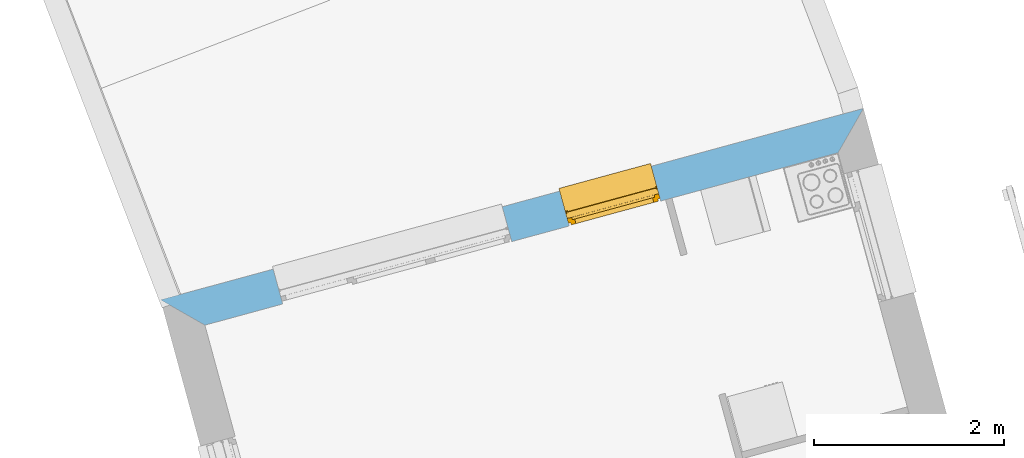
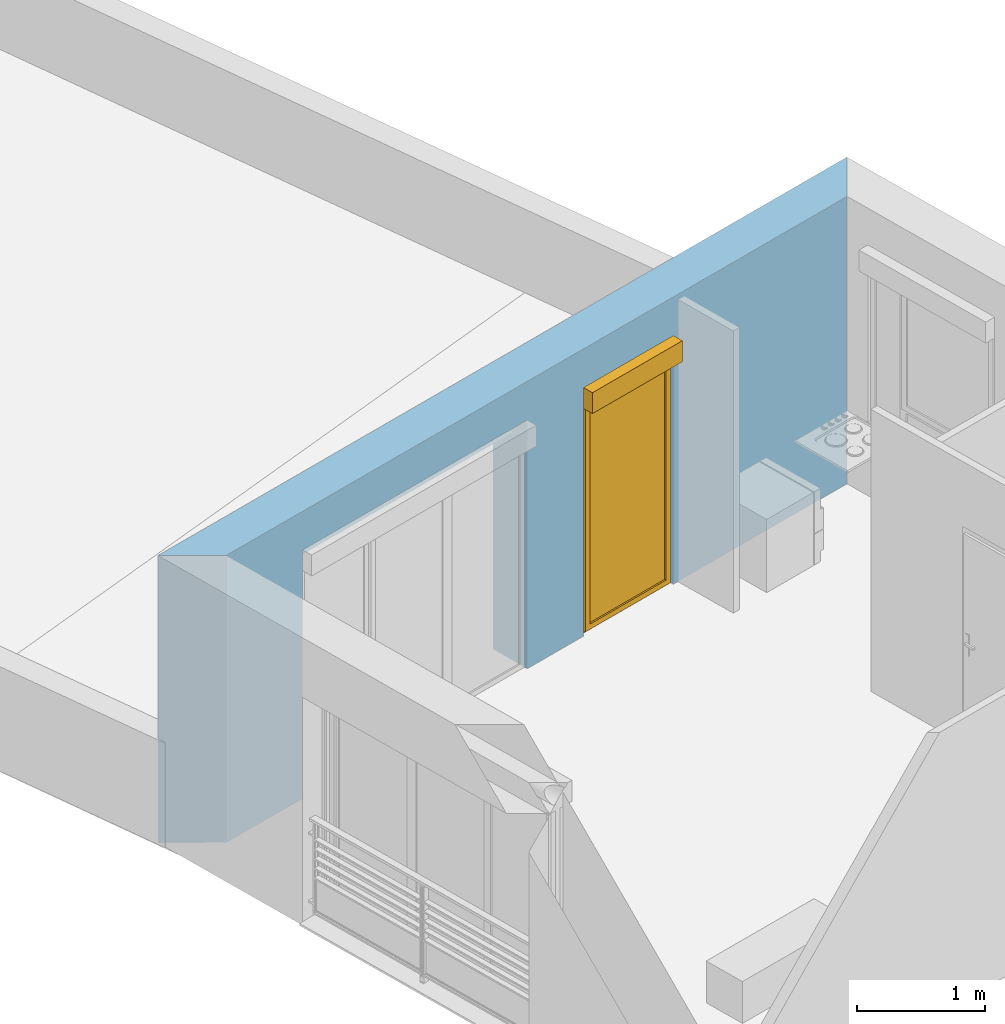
# One storey, part 65 of 121: 1 window, 2 openings, plus 1 element that does not belong to this part.
"""IFC2X3 building model written with IfcOpenShell, lengths in metres."""

import ifcopenshell
import ifcopenshell.guid

model = None  # the IFC model being written
_history = None  # IfcOwnerHistory: only IFC2X3 demands one
_inside = {}  # id of a spatial element -> (the spatial element, [elements in it])
_under = {}  # id of a project, library or spatial element -> (it, [spatial elements below it])
_declared = {}  # id of a project -> (the project, [libraries it declares])
_typed = {}  # id of a type object -> (the type object, [elements of that type])
_made_of = {}  # id of a material, layer set ... -> (it, [elements and type objects made of it])


def new_model(schema):
    """Start an empty IFC model of exactly this schema.

    Asked for "IFC4X3", IfcOpenShell would pick the latest addendum, in which some entities
    have other attributes; the version numbers below select the first issue.
    IFC2X3 requires an IfcOwnerHistory on every rooted entity: one is made here for all.
    """
    global model, _history
    if schema == "IFC4X3":
        model = ifcopenshell.file(schema_version=(4, 3, 0, 0))
    else:
        model = ifcopenshell.file(schema=schema)
    _inside.clear()
    _under.clear()
    _declared.clear()
    _typed.clear()
    _made_of.clear()
    _history = None
    if model.schema == "IFC2X3":
        org = make("IfcOrganization", Name="unknown")
        user = make(
            "IfcPersonAndOrganization",
            ThePerson=make("IfcPerson", FamilyName="unknown"),
            TheOrganization=org,
        )
        app = make(
            "IfcApplication",
            ApplicationDeveloper=org,
            Version="unknown",
            ApplicationFullName="unknown",
            ApplicationIdentifier="unknown",
        )
        _history = make(
            "IfcOwnerHistory",
            OwningUser=user,
            OwningApplication=app,
            ChangeAction="ADDED",
            CreationDate=0,
        )
    return model


def make(cls, **values):
    """One entity of the class cls with the attributes given. An attribute that is None is left unset."""
    return model.create_entity(
        cls, **{name: value for name, value in values.items() if value is not None}
    )


def entity(cls, *values):
    """Any entity or typed value of the class cls, its attributes in the order of the schema. None: left unset."""
    e = model.create_entity(cls)
    for i, value in enumerate(values):
        if value is not None:
            e[i] = value
    return e


def rooted(cls, **values):
    """An entity with a GlobalId (a new one), such as an element, a storey or a relation."""
    return make(cls, GlobalId=ifcopenshell.guid.new(), OwnerHistory=_history, **values)


def si_unit(unit_type, name, prefix=None):
    """IfcSIUnit, for example si_unit("LENGTHUNIT", "METRE", prefix="MILLI")."""
    return make("IfcSIUnit", UnitType=unit_type, Prefix=prefix, Name=name)


def converted_unit(unit_type, name, factor, base, dimensions=None, offset=None):
    """IfcConversionBasedUnit, such as the inch: factor (a typed value) times the base unit."""
    return make(
        "IfcConversionBasedUnit"
        if offset is None
        else "IfcConversionBasedUnitWithOffset",
        ConversionOffset=offset,
        Dimensions=None
        if dimensions is None
        else entity("IfcDimensionalExponents", *dimensions),
        UnitType=unit_type,
        Name=name,
        ConversionFactor=make(
            "IfcMeasureWithUnit", ValueComponent=factor, UnitComponent=base
        ),
    )


def derived_unit(unit_type, elements):
    """IfcDerivedUnit: a product of units, each with its exponent."""
    return make(
        "IfcDerivedUnit",
        Elements=[
            make("IfcDerivedUnitElement", Unit=unit, Exponent=power)
            for unit, power in elements
        ],
        UnitType=unit_type,
    )


def money_unit(currency):
    """IfcMonetaryUnit."""
    return make("IfcMonetaryUnit", Currency=currency)


def assignment(units):
    """IfcUnitAssignment: the units of a project."""
    return None if units is None else make("IfcUnitAssignment", Units=units)


def point(xyz):
    """IfcCartesianPoint."""
    return None if xyz is None else make("IfcCartesianPoint", Coordinates=xyz)


def direction(xyz):
    """IfcDirection."""
    return None if xyz is None else make("IfcDirection", DirectionRatios=xyz)


def frame(location, z_axis=None, x_axis=None):
    """IfcAxis2Placement3D, a coordinate frame: its origin and axes. An axis left out is left unset."""
    return make(
        "IfcAxis2Placement3D",
        Location=point(location),
        Axis=direction(z_axis),
        RefDirection=direction(x_axis),
    )


def origin_with_axes():
    """The frame at (0, 0, 0) with the z axis (0, 0, 1) and the x axis (1, 0, 0) written out."""
    return frame((0.0, 0.0, 0.0), z_axis=(0.0, 0.0, 1.0), x_axis=(1.0, 0.0, 0.0))


def place(relative_to, where):
    """IfcLocalPlacement: puts the frame where relative to a parent placement (None: the world)."""
    return make(
        "IfcLocalPlacement", PlacementRelTo=relative_to, RelativePlacement=where
    )


def context(
    kind, dimensions, precision=None, world=None, true_north=None, identifier=None
):
    """IfcGeometricRepresentationContext, for example the 3D "Model" context."""
    return make(
        "IfcGeometricRepresentationContext",
        ContextIdentifier=identifier,
        ContextType=kind,
        CoordinateSpaceDimension=dimensions,
        Precision=precision,
        WorldCoordinateSystem=world,
        TrueNorth=true_north,
    )


def subcontext(parent, identifier, kind, view, scale=None):
    """IfcGeometricRepresentationSubContext, for example "Body" below "Model"."""
    return make(
        "IfcGeometricRepresentationSubContext",
        ContextIdentifier=identifier,
        ContextType=kind,
        ParentContext=parent,
        TargetScale=scale,
        TargetView=view,
    )


def project(units=None, contexts=None):
    """IfcProject with its units and contexts."""
    return rooted(
        "IfcProject",
        Name="project",
        RepresentationContexts=contexts,
        UnitsInContext=assignment(units),
    )


def spatial(cls, under=None, at=None, **own):
    """A site, building, storey or space (cls), placed at a placement, below another one or the project."""
    s = rooted(cls, ObjectPlacement=at, **own)
    if under is not None:
        _under.setdefault(under.id(), (under, []))[1].append(s)
    return s


def polyline(points):
    """IfcPolyline through the points."""
    return make("IfcPolyline", Points=[point(p) for p in points])


def outline(outer, holes=None, kind="AREA"):
    """IfcArbitraryClosedProfileDef: a profile drawn as a closed curve; with holes, ...WithVoids."""
    if holes is None:
        return make("IfcArbitraryClosedProfileDef", ProfileType=kind, OuterCurve=outer)
    return make(
        "IfcArbitraryProfileDefWithVoids",
        ProfileType=kind,
        OuterCurve=outer,
        InnerCurves=holes,
    )


def extrude(swept, where, along, depth):
    """IfcExtrudedAreaSolid: the profile swept, set in the frame where, extruded along a direction by depth."""
    return make(
        "IfcExtrudedAreaSolid",
        SweptArea=swept,
        Position=where,
        ExtrudedDirection=direction(along),
        Depth=depth,
    )


def faces_of(points, faces, orient=None, outer=None):
    """IfcFace entities. A face is a list of loops; a loop is a list of indices into points, from 0.

    orient and outer hold one flag for each loop. By default every Orientation is true, the
    first loop of a face is its IfcFaceOuterBound and the others are IfcFaceBound.
    """
    made = []
    for i, loops in enumerate(faces):
        bounds = []
        for j, loop in enumerate(loops):
            is_outer = j == 0 if outer is None else outer[i][j]
            bounds.append(
                make(
                    "IfcFaceOuterBound" if is_outer else "IfcFaceBound",
                    Bound=make("IfcPolyLoop", Polygon=[points[k] for k in loop]),
                    Orientation=True if orient is None else orient[i][j],
                )
            )
        made.append(make("IfcFace", Bounds=bounds))
    return made


def open_shell(faces, orient=None, outer=None):
    """The faces of one IfcOpenShell. surface_model builds it on its shared points."""
    return ("IfcOpenShell", faces, orient, outer)


def faceted_brep(points, faces, orient=None, outer=None, voids=None):
    """IfcFacetedBrep: a solid bounded by flat faces; with voids (closed shells), ...WithVoids."""
    shared = [point(p) for p in points]
    hull = make("IfcClosedShell", CfsFaces=faces_of(shared, faces, orient, outer))
    if voids is None:
        return make("IfcFacetedBrep", Outer=hull)
    return make(
        "IfcFacetedBrepWithVoids",
        Outer=hull,
        Voids=[
            make(cls, CfsFaces=faces_of(shared, fs, o, b)) for cls, fs, o, b in voids
        ],
    )


def surface_model(cls, points, shells):
    """IfcFaceBasedSurfaceModel or IfcShellBasedSurfaceModel (cls): surfaces that need not close."""
    shared = [point(p) for p in points]
    made = [make(c, CfsFaces=faces_of(shared, fs, o, b)) for c, fs, o, b in shells]
    if cls == "IfcFaceBasedSurfaceModel":
        return make(cls, FbsmFaces=made)
    return make(cls, SbsmBoundary=made)


def shape(context_of_items, identifier, shape_type, items):
    """IfcShapeRepresentation: the items that make up one representation, for example the "Body"."""
    return make(
        "IfcShapeRepresentation",
        ContextOfItems=context_of_items,
        RepresentationIdentifier=identifier,
        RepresentationType=shape_type,
        Items=items,
    )


def source(mapping_origin, context_of_items, identifier, shape_type, items):
    """IfcRepresentationMap: a shape defined once, which mapped items show again and again."""
    return make(
        "IfcRepresentationMap",
        MappingOrigin=mapping_origin,
        MappedRepresentation=shape(context_of_items, identifier, shape_type, items),
    )


def transform(
    local_origin,
    x_axis=None,
    y_axis=None,
    z_axis=None,
    scale=None,
    scale2=None,
    scale3=None,
    uniform=True,
):
    """IfcCartesianTransformationOperator3D, or its non-uniform kind. x_axis, y_axis, z_axis: its Axis1, 2, 3."""
    if uniform:
        return make(
            "IfcCartesianTransformationOperator3D",
            Axis1=direction(x_axis),
            Axis2=direction(y_axis),
            LocalOrigin=point(local_origin),
            Scale=scale,
            Axis3=direction(z_axis),
        )
    return make(
        "IfcCartesianTransformationOperator3DnonUniform",
        Axis1=direction(x_axis),
        Axis2=direction(y_axis),
        LocalOrigin=point(local_origin),
        Scale=scale,
        Axis3=direction(z_axis),
        Scale2=scale2,
        Scale3=scale3,
    )


def mapped(mapping_source, mapping_target):
    """IfcMappedItem: shows the shape of a source again, moved by a transform."""
    return make(
        "IfcMappedItem", MappingSource=mapping_source, MappingTarget=mapping_target
    )


def material(Name=None, Category=None):
    """IfcMaterial."""
    return make("IfcMaterial", Name=Name, Category=Category)


def layer(
    of_material, thickness, ventilated=None, Name=None, Category=None, Priority=None
):
    """IfcMaterialLayer: one layer of a wall or slab, of a material (None: an air gap)."""
    return make(
        "IfcMaterialLayer",
        Material=of_material,
        LayerThickness=thickness,
        IsVentilated=ventilated,
        Name=Name,
        Category=Category,
        Priority=Priority,
    )


def layer_set(layers, Name=None):
    """IfcMaterialLayerSet."""
    return make("IfcMaterialLayerSet", MaterialLayers=layers, LayerSetName=Name)


def layer_usage(for_layer_set, set_direction, sense, offset, extent=None):
    """IfcMaterialLayerSetUsage: how a layer set lies in its element."""
    return make(
        "IfcMaterialLayerSetUsage",
        ForLayerSet=for_layer_set,
        LayerSetDirection=set_direction,
        DirectionSense=sense,
        OffsetFromReferenceLine=offset,
        ReferenceExtent=extent,
    )


def made_of(thing, what):
    """Note that an element or type object is made of a material, layer set ...; save() writes the relation."""
    if what is not None:
        _made_of.setdefault(what.id(), (what, []))[1].append(thing)
    return thing


def type_object(cls, material=None, **own):
    """A type object (cls), such as IfcWallType, which elements share."""
    return made_of(rooted(cls, **own), material)


def element(
    cls,
    number,
    at=None,
    inside=None,
    cuts=None,
    type_object=None,
    material=None,
    context=None,
    identifier="Body",
    shape_type=None,
    held_by="IfcProductDefinitionShape",
    body=None,
    shapes=None,
    **own,
):
    """One element of the class cls, such as IfcWall. Its Tag is "e" and its number.

    at: its placement. inside: the storey or other place that contains it. cuts: it is an
    opening in that element (IfcRelVoidsElement). A single representation is given by context,
    identifier, shape_type and body (its items); several are given by shapes. held_by: the class
    of the entity that holds the representations. save() writes the other relations.
    """
    e = rooted(cls, Tag="e%d" % number, ObjectPlacement=at, **own)
    if body is not None:
        shapes = [shape(context, identifier, shape_type, body)]
    if shapes is not None:
        e.Representation = make(held_by, Representations=shapes)
    if inside is not None:
        _inside.setdefault(inside.id(), (inside, []))[1].append(e)
    if cuts is not None:
        rooted(
            "IfcRelVoidsElement", RelatingBuildingElement=cuts, RelatedOpeningElement=e
        )
    if type_object is not None:
        _typed.setdefault(type_object.id(), (type_object, []))[1].append(e)
    return made_of(e, material)


def fill(opening, filler):
    """IfcRelFillsElement: the door or window that sits in an opening."""
    return rooted(
        "IfcRelFillsElement",
        RelatingOpeningElement=opening,
        RelatedBuildingElement=filler,
    )


def aggregate(whole, parts):
    """IfcRelAggregates: a whole, such as a stair, and the parts it consists of."""
    return rooted("IfcRelAggregates", RelatingObject=whole, RelatedObjects=parts)


def save(model, path):
    """Write the relations noted so far, then the file.

    IfcRelAggregates (storeys below a building ...), IfcRelContainedInSpatialStructure (elements
    in a storey), IfcRelDefinesByType, IfcRelAssociatesMaterial and IfcRelDeclares: one each for
    every whole, place, type object, material and project.
    """
    for whole, parts in _under.values():
        aggregate(whole, parts)
    for where, things in _inside.values():
        rooted(
            "IfcRelContainedInSpatialStructure",
            RelatedElements=things,
            RelatingStructure=where,
        )
    for kind, things in _typed.values():
        rooted("IfcRelDefinesByType", RelatedObjects=things, RelatingType=kind)
    for what, things in _made_of.values():
        rooted("IfcRelAssociatesMaterial", RelatedObjects=things, RelatingMaterial=what)
    for by, libraries in _declared.values():
        rooted("IfcRelDeclares", RelatingContext=by, RelatedDefinitions=libraries)
    model.write(path)


model = new_model("IFC2X3")

# Units and contexts
model_context = context("Model", 3, precision=1e-05, world=origin_with_axes(), true_north=direction((0.0, 1.0)))
body_context = subcontext(model_context, "Body", "Model", "MODEL_VIEW")
ifc_project = project(units=[si_unit("LENGTHUNIT", "METRE"), si_unit("AREAUNIT", "SQUARE_METRE"), si_unit("VOLUMEUNIT", "CUBIC_METRE"), converted_unit("PLANEANGLEUNIT", "DEGREE", entity("IfcPlaneAngleMeasure", 0.0174532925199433), si_unit("PLANEANGLEUNIT", "RADIAN"), dimensions=[0, 0, 0, 0, 0, 0, 0]), money_unit("CHF"), converted_unit("TIMEUNIT", "Year", entity("IfcTimeMeasure", 31557600.0), si_unit("TIMEUNIT", "SECOND"), dimensions=[0, 0, 1, 0, 0, 0, 0]), si_unit("MASSUNIT", "GRAM", prefix="KILO"), si_unit("THERMODYNAMICTEMPERATUREUNIT", "DEGREE_CELSIUS"), si_unit("LUMINOUSINTENSITYUNIT", "LUMEN"), si_unit("ENERGYUNIT", "JOULE", prefix="MEGA"), derived_unit("THERMALCONDUCTANCEUNIT", [(si_unit("POWERUNIT", "WATT"), 1), (si_unit("LENGTHUNIT", "METRE"), -1), (si_unit("THERMODYNAMICTEMPERATUREUNIT", "KELVIN"), -1)]), derived_unit("SPECIFICHEATCAPACITYUNIT", [(si_unit("ENERGYUNIT", "JOULE"), 1), (si_unit("MASSUNIT", "GRAM", prefix="KILO"), -1), (si_unit("THERMODYNAMICTEMPERATUREUNIT", "KELVIN"), -1)]), derived_unit("MASSDENSITYUNIT", [(si_unit("MASSUNIT", "GRAM", prefix="KILO"), 1), (si_unit("VOLUMEUNIT", "CUBIC_METRE"), -1)])], contexts=[model_context])

# Site, building, storey
site_placement = place(None, origin_with_axes())
site = spatial("IfcSite", under=ifc_project, at=site_placement, Name="Site", CompositionType="ELEMENT")
building_placement = place(site_placement, origin_with_axes())
building = spatial("IfcBuilding", under=site, at=building_placement, Name="Bâtiment", CompositionType="ELEMENT")
storey_placement = place(building_placement, frame((0.0, 0.0, 2.75), z_axis=(0.0, 0.0, 1.0), x_axis=(1.0, 0.0, 0.0)))
storey = spatial("IfcBuildingStorey", under=building, at=storey_placement, Name="Etage 1", CompositionType="ELEMENT", Elevation=2.75)

# Wall, openings, window
ifc_material_1 = material(Name="Parpaing 312445824")
ifc_layer_1 = layer(ifc_material_1, 0.22, ventilated="UNKNOWN")
ifc_material_2 = material(Name="Isolant styromousse 301821074")
ifc_layer_2 = layer(ifc_material_2, 0.16, ventilated="UNKNOWN")
ifc_layer_set = layer_set([ifc_layer_1, ifc_layer_2], Name="isol int 22+16 0836643197")
ifc_layer_usage = layer_usage(ifc_layer_set, "AXIS2", "POSITIVE", 0.0)
wall_type = type_object("IfcWallType", Name="isol int 22+16 0836643197 380", PredefinedType="NOTDEFINED")
wall_placement = place(storey_placement, frame((9593.736527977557, -1044.912464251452, 57.7), z_axis=(0.0, 0.0, 1.0), x_axis=(-0.9648682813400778, -0.2627340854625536, 0.0)))
wall = element("IfcWallStandardCase", 1, at=wall_placement, inside=storey, type_object=wall_type, material=ifc_layer_usage, Name="Mur-113", context=body_context, shape_type="SweptSolid", body=[
    extrude(outline(polyline([(0.0, 0.0), (7.669914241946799, 0.0), (7.289914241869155, 0.3799999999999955), (0.3799999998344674, 0.3799999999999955), (0.0, 0.0)])), origin_with_axes(), (0.0, 0.0, 1.0), 2.75),
])
opening_1_placement = place(wall_placement, frame((5.190827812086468, 0.0, 0.0), z_axis=(0.0, 0.0, 1.0), x_axis=(1.0, 0.0, 0.0)))
element("IfcOpeningElement", 2, at=opening_1_placement, cuts=wall, Name="Fen-045", context=body_context, shape_type="Brep", body=[
    faceted_brep([(-1.25, 0.2999999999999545, 2.18), (-1.250000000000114, 0.4799999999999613, 2.18), (-1.250000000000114, 2.325352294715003, 2.18), (-1.250000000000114, 2.325352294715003, 0.0), (-1.25, 0.2999999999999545, 0.0), (-1.25, 0.2199999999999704, 2.18), (-1.25, 0.2199999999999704, 2.380000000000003), (-1.250000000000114, 0.4799999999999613, 2.380000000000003), (1.25, 0.4800000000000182, 2.18), (1.25, 2.325352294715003, 2.18), (1.25, 2.325352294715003, 0.0), (1.250000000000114, 0.2999999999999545, 0.0), (1.25, -1.945352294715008, 0.0), (-1.25, -1.945352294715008, 0.0), (-1.25, -1.945352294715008, 2.18), (1.25, 0.2199999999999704, 2.18), (1.25, 0.2199999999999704, 2.380000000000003), (1.25, 0.4800000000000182, 2.380000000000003), (1.25, 0.2999999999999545, 2.18), (1.25, -1.945352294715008, 2.18)], [[[0, 1, 2, 3, 4]], [[1, 0, 5, 6, 7]], [[1, 8, 9, 2]], [[9, 10, 3, 2]], [[11, 12, 13, 4, 3, 10]], [[5, 0, 4, 13, 14]], [[5, 15, 16, 6]], [[16, 17, 7, 6]], [[8, 1, 7, 17]], [[8, 18, 11, 10, 9]], [[18, 15, 19, 12, 11]], [[14, 13, 12, 19]], [[15, 5, 14, 19]], [[18, 8, 17, 16, 15]]]),
])
opening_2_placement = place(wall_placement, frame((2.814693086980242, 0.0, 0.0), z_axis=(0.0, 0.0, 1.0), x_axis=(1.0, 0.0, 0.0)))
opening_2 = element("IfcOpeningElement", 3, at=opening_2_placement, cuts=wall, Name="Fen-052", context=body_context, shape_type="Brep", body=[
    faceted_brep([(-0.5, 0.3000000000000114, 2.18), (-0.5, 0.4800000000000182, 2.18), (-0.5, 2.325352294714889, 2.18), (-0.5, 2.325352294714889, 0.0), (-0.5, 0.3000000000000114, 0.0), (-0.5, 0.2199999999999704, 2.18), (-0.5, 0.2199999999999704, 2.380000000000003), (-0.5, 0.4800000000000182, 2.380000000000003), (0.4999999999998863, 0.4800000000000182, 2.18), (0.5, 2.325352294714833, 2.18), (0.5, 2.325352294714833, 0.0), (0.5, 0.2999999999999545, 0.0), (0.4999999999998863, -1.945352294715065, 0.0), (-0.5000000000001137, -1.945352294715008, 0.0), (-0.5000000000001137, -1.945352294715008, 2.18), (0.4999999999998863, 0.2199999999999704, 2.18), (0.4999999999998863, 0.2199999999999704, 2.380000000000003), (0.4999999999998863, 0.4800000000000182, 2.380000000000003), (0.4999999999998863, 0.2999999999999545, 2.18), (0.4999999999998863, -1.945352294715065, 2.18)], [[[0, 1, 2, 3, 4]], [[1, 0, 5, 6, 7]], [[1, 8, 9, 2]], [[9, 10, 3, 2]], [[11, 12, 13, 4, 3, 10]], [[5, 0, 4, 13, 14]], [[5, 15, 16, 6]], [[7, 6, 16, 17]], [[8, 1, 7, 17]], [[8, 18, 11, 10, 9]], [[18, 15, 19, 12, 11]], [[14, 13, 12, 19]], [[15, 5, 14, 19]], [[18, 8, 17, 16, 15]]]),
])
window_style = type_object("IfcWindowStyle", Name="Fenêtre variable 27", ConstructionType="NOTDEFINED", OperationType="SINGLE_PANEL", ParameterTakesPrecedence=False, Sizeable=False)
shared_shape = source(origin_with_axes(), body_context, "Body", "SurfaceModel", [
    surface_model("IfcShellBasedSurfaceModel", [(0.5, -0.05100000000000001, 0.05), (-0.5, -0.05100000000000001, 0.05000000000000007), (-0.5, -0.05100000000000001, 0.04000000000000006), (0.5, -0.05100000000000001, 0.04), (-0.5, -0.3799999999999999, 0.02900000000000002), (0.5, -0.3799999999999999, 0.02899999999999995), (-0.5, -0.3799999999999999, 0.009000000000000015), (0.5, -0.3799999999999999, 0.008999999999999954), (-0.5, -0.3699999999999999, 0.01900000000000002), (0.5, -0.3699999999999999, 0.01899999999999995)], [open_shell([[[0, 1, 2, 3]], [[3, 2, 4, 5]], [[5, 4, 6, 7]], [[7, 6, 8, 9]]])]),
    faceted_brep([(0.5, -0.13, 2.38), (0.5, 0.13, 2.38), (0.497, 0.13, 2.38), (0.497, -0.13, 2.38), (0.5, -0.13, 2.18), (0.5, 0.13, 2.18), (0.497, 0.13, 2.18), (0.497, -0.13, 2.18)], [[[0, 1, 2, 3]], [[0, 4, 5, 1]], [[1, 5, 6, 2]], [[3, 2, 6, 7]], [[4, 0, 3, 7]], [[5, 4, 7, 6]]]),
    faceted_brep([(-0.497, -0.1299999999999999, 2.38), (-0.497, 0.1300000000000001, 2.38), (-0.5, 0.1300000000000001, 2.38), (-0.5, -0.1299999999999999, 2.38), (-0.497, -0.1299999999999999, 2.18), (-0.497, 0.1300000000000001, 2.18), (-0.5, 0.1300000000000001, 2.18), (-0.5, -0.1299999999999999, 2.18)], [[[0, 1, 2, 3]], [[0, 4, 5, 1]], [[1, 5, 6, 2]], [[3, 2, 6, 7]], [[4, 0, 3, 7]], [[5, 4, 7, 6]]]),
    faceted_brep([(0.497, -0.13, 2.18), (0.497, -0.13, 2.38), (-0.497, -0.1299999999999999, 2.38), (-0.497, -0.1299999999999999, 2.18), (0.497, -0.127, 2.18), (0.497, -0.127, 2.377), (0.497, 0.127, 2.377), (0.497, 0.127, 2.183), (0.497, -0.108, 2.183), (0.497, -0.108, 2.18), (0.497, 0.13, 2.18), (0.497, 0.13, 2.38), (-0.497, 0.1300000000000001, 2.38), (-0.497, 0.1300000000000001, 2.18), (-0.497, -0.1079999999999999, 2.18), (-0.497, -0.1079999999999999, 2.183), (-0.497, 0.1270000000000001, 2.183), (-0.497, 0.1270000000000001, 2.377), (-0.497, -0.1269999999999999, 2.377), (-0.497, -0.1269999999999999, 2.18)], [[[0, 1, 2, 3]], [[0, 4, 5, 6, 7, 8, 9, 10, 11, 1]], [[1, 11, 12, 2]], [[3, 2, 12, 13, 14, 15, 16, 17, 18, 19]], [[4, 0, 3, 19]], [[5, 4, 19, 18]], [[6, 5, 18, 17]], [[7, 6, 17, 16]], [[8, 7, 16, 15]], [[9, 8, 15, 14]], [[10, 9, 14, 13]], [[11, 10, 13, 12]]]),
    faceted_brep([(0.494, -0.08075423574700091, 2.265760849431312), (0.494, -0.07705479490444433, 2.251954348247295), (0.494, -0.07101408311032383, 2.239), (0.494, -0.06281564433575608, 2.227291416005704), (0.494, -0.05270858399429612, 2.217184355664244), (0.494, -0.04099999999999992, 2.208985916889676), (0.494, -0.02804565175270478, 2.202945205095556), (0.494, -0.01423915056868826, 2.199245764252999), (0.494, 0.0, 2.198), (0.494, 0.01423915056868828, 2.199245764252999), (0.494, 0.02804565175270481, 2.202945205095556), (0.494, 0.04099999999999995, 2.208985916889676), (0.494, 0.05270858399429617, 2.217184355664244), (0.494, 0.06281564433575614, 2.227291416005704), (0.494, 0.0710140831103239, 2.239), (0.494, 0.07705479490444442, 2.251954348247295), (0.494, 0.08075423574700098, 2.265760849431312), (0.494, 0.08199999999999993, 2.28), (0.494, 0.080754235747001, 2.294239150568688), (0.494, 0.07705479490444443, 2.308045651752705), (0.494, 0.07101408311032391, 2.321), (0.494, 0.06281564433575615, 2.332708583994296), (0.494, 0.05270858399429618, 2.342815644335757), (0.494, 0.04099999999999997, 2.351014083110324), (0.494, 0.02804565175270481, 2.357054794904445), (0.494, 0.01423915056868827, 2.360754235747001), (0.494, 0.0, 2.362), (0.494, -0.0142391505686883, 2.360754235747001), (0.494, -0.02804565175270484, 2.357054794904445), (0.494, -0.041, 2.351014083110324), (0.494, -0.05270858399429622, 2.342815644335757), (0.494, -0.0628156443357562, 2.332708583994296), (0.494, -0.07101408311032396, 2.321), (0.494, -0.07705479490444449, 2.308045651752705), (0.494, -0.08075423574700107, 2.294239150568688), (0.494, -0.082, 2.28), (-0.494, -0.08075423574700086, 2.265760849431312), (-0.494, -0.07705479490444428, 2.251954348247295), (-0.494, -0.07101408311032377, 2.239), (-0.494, -0.06281564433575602, 2.227291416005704), (-0.494, -0.05270858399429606, 2.217184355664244), (-0.494, -0.04099999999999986, 2.208985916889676), (-0.494, -0.02804565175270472, 2.202945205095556), (-0.494, -0.01423915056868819, 2.199245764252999), (-0.494, 0.0, 2.198), (-0.494, 0.01423915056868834, 2.199245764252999), (-0.494, 0.02804565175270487, 2.202945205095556), (-0.494, 0.04100000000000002, 2.208985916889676), (-0.494, 0.05270858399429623, 2.217184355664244), (-0.494, 0.06281564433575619, 2.227291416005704), (-0.494, 0.07101408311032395, 2.239), (-0.494, 0.07705479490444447, 2.251954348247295), (-0.494, 0.08075423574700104, 2.265760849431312), (-0.494, 0.08199999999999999, 2.28), (-0.494, 0.08075423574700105, 2.294239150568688), (-0.494, 0.07705479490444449, 2.308045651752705), (-0.494, 0.07101408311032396, 2.321), (-0.494, 0.0628156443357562, 2.332708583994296), (-0.494, 0.05270858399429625, 2.342815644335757), (-0.494, 0.04100000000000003, 2.351014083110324), (-0.494, 0.02804565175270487, 2.357054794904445), (-0.494, 0.01423915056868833, 2.360754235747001), (-0.494, 0.0, 2.362), (-0.494, -0.01423915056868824, 2.360754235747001), (-0.494, -0.02804565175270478, 2.357054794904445), (-0.494, -0.04099999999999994, 2.351014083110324), (-0.494, -0.05270858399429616, 2.342815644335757), (-0.494, -0.06281564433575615, 2.332708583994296), (-0.494, -0.07101408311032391, 2.321), (-0.494, -0.07705479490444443, 2.308045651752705), (-0.494, -0.08075423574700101, 2.294239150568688), (-0.494, -0.08199999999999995, 2.28)], [[[0, 1, 2, 3, 4, 5, 6, 7, 8, 9, 10, 11, 12, 13, 14, 15, 16, 17, 18, 19, 20, 21, 22, 23, 24, 25, 26, 27, 28, 29, 30, 31, 32, 33, 34, 35]], [[1, 0, 36, 37]], [[2, 1, 37, 38]], [[3, 2, 38, 39]], [[4, 3, 39, 40]], [[5, 4, 40, 41]], [[6, 5, 41, 42]], [[7, 6, 42, 43]], [[8, 7, 43, 44]], [[9, 8, 44, 45]], [[10, 9, 45, 46]], [[11, 10, 46, 47]], [[12, 11, 47, 48]], [[13, 12, 48, 49]], [[14, 13, 49, 50]], [[15, 14, 50, 51]], [[16, 15, 51, 52]], [[17, 16, 52, 53]], [[18, 17, 53, 54]], [[19, 18, 54, 55]], [[20, 19, 55, 56]], [[21, 20, 56, 57]], [[22, 21, 57, 58]], [[23, 22, 58, 59]], [[24, 23, 59, 60]], [[25, 24, 60, 61]], [[26, 25, 61, 62]], [[27, 26, 62, 63]], [[28, 27, 63, 64]], [[29, 28, 64, 65]], [[30, 29, 65, 66]], [[31, 30, 66, 67]], [[32, 31, 67, 68]], [[33, 32, 68, 69]], [[34, 33, 69, 70]], [[35, 34, 70, 71]], [[0, 35, 71, 36]], [[36, 71, 70, 69, 68, 67, 66, 65, 64, 63, 62, 61, 60, 59, 58, 57, 56, 55, 54, 53, 52, 51, 50, 49, 48, 47, 46, 45, 44, 43, 42, 41, 40, 39, 38, 37]]]),
    faceted_brep([(-0.5, -0.105, 0.03), (-0.5, -0.13, 0.03), (-0.5, -0.1299999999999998, 2.18), (-0.5, -0.1049999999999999, 2.18), (-0.475, -0.105, 0.03), (-0.475, -0.108, 0.03), (-0.497, -0.108, 0.03), (-0.497, -0.127, 0.03), (-0.475, -0.127, 0.03), (-0.475, -0.13, 0.03), (-0.475, -0.1299999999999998, 2.18), (-0.475, -0.1269999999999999, 2.18), (-0.497, -0.1269999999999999, 2.18), (-0.497, -0.1079999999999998, 2.18), (-0.475, -0.1079999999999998, 2.18), (-0.475, -0.1049999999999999, 2.18)], [[[0, 1, 2, 3]], [[0, 4, 5, 6, 7, 8, 9, 1]], [[1, 9, 10, 2]], [[3, 2, 10, 11, 12, 13, 14, 15]], [[4, 0, 3, 15]], [[5, 4, 15, 14]], [[6, 5, 14, 13]], [[7, 6, 13, 12]], [[8, 7, 12, 11]], [[9, 8, 11, 10]]]),
    faceted_brep([(0.5, -0.105, 0.03), (0.5, -0.1049999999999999, 2.18), (0.5, -0.1299999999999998, 2.18), (0.5, -0.13, 0.03), (0.475, -0.105, 0.03), (0.475, -0.1049999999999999, 2.18), (0.475, -0.1079999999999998, 2.18), (0.497, -0.1079999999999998, 2.18), (0.497, -0.1269999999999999, 2.18), (0.475, -0.1269999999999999, 2.18), (0.475, -0.1299999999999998, 2.18), (0.475, -0.13, 0.03), (0.475, -0.127, 0.03), (0.497, -0.127, 0.03), (0.497, -0.108, 0.03), (0.475, -0.108, 0.03)], [[[0, 1, 2, 3]], [[4, 5, 1, 0]], [[1, 5, 6, 7, 8, 9, 10, 2]], [[3, 2, 10, 11]], [[0, 3, 11, 12, 13, 14, 15, 4]], [[15, 6, 5, 4]], [[14, 7, 6, 15]], [[13, 8, 7, 14]], [[12, 9, 8, 13]], [[11, 10, 9, 12]]]),
    surface_model("IfcShellBasedSurfaceModel", [(0.497, -0.115, 2.28), (-0.497, -0.1149999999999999, 2.28), (-0.497, -0.1199999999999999, 2.28), (0.497, -0.12, 2.28), (0.497, -0.115, 2.28), (0.497, -0.12, 2.28), (-0.497, -0.1199999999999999, 2.28), (-0.497, -0.1149999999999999, 2.28)], [open_shell([[[0, 1, 2, 3]], [[4, 5, 6, 7]]])]),
    faceted_brep([(0.497, -0.115, 2.28), (0.497, -0.1166666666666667, 2.263333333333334), (-0.497, -0.1166666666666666, 2.263333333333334), (-0.497, -0.1149999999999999, 2.28), (0.497, -0.12, 2.28), (0.497, -0.1216666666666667, 2.263333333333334), (0.497, -0.1216666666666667, 2.246666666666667), (0.497, -0.12, 2.23), (0.497, -0.115, 2.23), (0.497, -0.1166666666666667, 2.246666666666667), (-0.497, -0.1166666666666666, 2.246666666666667), (-0.497, -0.1149999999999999, 2.23), (-0.497, -0.1199999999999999, 2.23), (-0.497, -0.1216666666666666, 2.246666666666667), (-0.497, -0.1216666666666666, 2.263333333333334), (-0.497, -0.1199999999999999, 2.28)], [[[0, 1, 2, 3]], [[0, 4, 5, 6, 7, 8, 9, 1]], [[1, 9, 10, 2]], [[3, 2, 10, 11, 12, 13, 14, 15]], [[4, 0, 3, 15]], [[5, 4, 15, 14]], [[6, 5, 14, 13]], [[7, 6, 13, 12]], [[8, 7, 12, 11]], [[9, 8, 11, 10]]]),
    faceted_brep([(0.497, -0.115, 2.23), (0.497, -0.1166666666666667, 2.213333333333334), (-0.497, -0.1166666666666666, 2.213333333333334), (-0.497, -0.1149999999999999, 2.23), (0.497, -0.12, 2.23), (0.497, -0.1216666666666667, 2.213333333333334), (0.497, -0.1216666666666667, 2.196666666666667), (0.497, -0.12, 2.180000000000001), (0.497, -0.115, 2.180000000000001), (0.497, -0.1166666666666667, 2.196666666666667), (-0.497, -0.1166666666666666, 2.196666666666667), (-0.497, -0.1149999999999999, 2.180000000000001), (-0.497, -0.1199999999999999, 2.180000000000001), (-0.497, -0.1216666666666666, 2.196666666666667), (-0.497, -0.1216666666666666, 2.213333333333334), (-0.497, -0.1199999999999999, 2.23)], [[[0, 1, 2, 3]], [[0, 4, 5, 6, 7, 8, 9, 1]], [[1, 9, 10, 2]], [[3, 2, 10, 11, 12, 13, 14, 15]], [[4, 0, 3, 15]], [[5, 4, 15, 14]], [[6, 5, 14, 13]], [[7, 6, 13, 12]], [[8, 7, 12, 11]], [[9, 8, 11, 10]]]),
    faceted_brep([(0.475, 0.0, 2.13), (0.475, -0.02500000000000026, 2.13), (0.45, -0.02500000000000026, 2.13), (0.45, -0.05000000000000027, 2.13), (0.5, -0.05000000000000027, 2.13), (0.5, 0.0, 2.13), (0.475, 0.0, 0.05000000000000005), (0.475, -0.02500000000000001, 0.05000000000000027), (0.45, -0.02500000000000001, 0.05000000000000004), (0.45, -0.05000000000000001, 0.05000000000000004), (0.5, -0.05000000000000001, 0.05000000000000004), (0.5, 0.0, 0.05000000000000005)], [[[0, 1, 2, 3, 4, 5]], [[1, 0, 6, 7]], [[8, 2, 1, 7]], [[2, 8, 9, 3]], [[4, 3, 9, 10]], [[5, 4, 10, 11]], [[6, 0, 5, 11]], [[7, 6, 11, 10, 9, 8]]]),
    faceted_brep([(-0.45, -0.02500000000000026, 2.13), (-0.475, -0.02500000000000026, 2.13), (-0.475, 0.0, 2.13), (-0.5, 0.0, 2.13), (-0.5, -0.05000000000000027, 2.13), (-0.45, -0.05000000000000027, 2.13), (-0.45, -0.02500000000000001, 0.05000000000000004), (-0.475, -0.02500000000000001, 0.05000000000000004), (-0.475, 0.0, 0.05000000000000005), (-0.5, 0.0, 0.05000000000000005), (-0.5, -0.05000000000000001, 0.05000000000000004), (-0.45, -0.05000000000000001, 0.05000000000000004)], [[[0, 1, 2, 3, 4, 5]], [[1, 0, 6, 7]], [[8, 2, 1, 7]], [[2, 8, 9, 3]], [[9, 10, 4, 3]], [[10, 11, 5, 4]], [[6, 0, 5, 11]], [[7, 6, 11, 10, 9, 8]]]),
    faceted_brep([(-0.45, -0.02500000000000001, 0.05000000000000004), (-0.475, -0.02500000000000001, 0.05000000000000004), (-0.475, 0.0, 0.05000000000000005), (-0.5, 0.0, 0.05000000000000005), (-0.5, -0.05000000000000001, 0.05000000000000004), (-0.45, -0.05000000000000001, 0.05000000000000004), (0.45, -0.02500000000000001, 0.05000000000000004), (0.475, -0.02500000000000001, 0.05000000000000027), (0.475, -0.025, 0.02499999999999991), (-0.475, -0.025, 0.02499999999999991), (-0.475, 0.0, 0.02499999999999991), (0.475, 0.0, 0.02499999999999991), (0.475, 0.0, 0.05000000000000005), (0.5, 0.0, 0.05000000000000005), (0.5, 0.0, 0.0), (-0.5, 0.0, 0.0), (-0.5, -0.05, 0.0), (0.5, -0.05000000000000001, 0.05000000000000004), (0.45, -0.05000000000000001, 0.05000000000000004), (0.5, -0.05, 0.0)], [[[0, 1, 2, 3, 4, 5]], [[1, 0, 6, 7, 8, 9]], [[10, 2, 1, 9]], [[11, 12, 13, 14, 15, 3, 2, 10]], [[15, 16, 4, 3]], [[17, 18, 5, 4, 16, 19]], [[6, 0, 5, 18]], [[7, 6, 18, 17, 13, 12]], [[7, 12, 11, 8]], [[11, 10, 9, 8]], [[13, 17, 19, 14]], [[14, 19, 16, 15]]]),
    faceted_brep([(0.475, 0.0, 2.13), (0.475, 0.0, 2.155), (-0.475, 0.0, 2.155), (-0.475, 0.0, 2.13), (-0.5, 0.0, 2.13), (-0.5, 0.0, 2.18), (0.5, 0.0, 2.18), (0.5, 0.0, 2.13), (0.475, -0.02500000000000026, 2.13), (0.475, -0.02500000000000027, 2.155), (-0.475, -0.02500000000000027, 2.155), (-0.475, -0.02500000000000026, 2.13), (-0.45, -0.02500000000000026, 2.13), (-0.45, -0.05000000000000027, 2.13), (-0.5, -0.05000000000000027, 2.13), (-0.5, -0.05000000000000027, 2.18), (0.5, -0.05000000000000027, 2.18), (0.5, -0.05000000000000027, 2.13), (0.45, -0.05000000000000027, 2.13), (0.45, -0.02500000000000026, 2.13)], [[[0, 1, 2, 3, 4, 5, 6, 7]], [[1, 0, 8, 9]], [[2, 1, 9, 10]], [[3, 2, 10, 11]], [[11, 12, 13, 14, 4, 3]], [[4, 14, 15, 5]], [[5, 15, 16, 6]], [[6, 16, 17, 7]], [[8, 0, 7, 17, 18, 19]], [[12, 11, 10, 9, 8, 19]], [[12, 19, 18, 13]], [[14, 13, 18, 17, 16, 15]]]),
    faceted_brep([(0.425, -0.02500000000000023, 2.105), (0.475, -0.02500000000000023, 2.105), (0.475, 0.02499999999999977, 2.105), (0.425, 0.02499999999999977, 2.105), (0.425, -0.02499999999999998, 0.07500000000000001), (0.475, -0.02499999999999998, 0.07500000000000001), (0.475, 0.02500000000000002, 0.07500000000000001), (0.425, 0.02500000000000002, 0.07500000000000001)], [[[0, 1, 2, 3]], [[0, 4, 5, 1]], [[1, 5, 6, 2]], [[3, 2, 6, 7]], [[4, 0, 3, 7]], [[5, 4, 7, 6]]]),
    faceted_brep([(-0.425, -0.02500000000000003, 0.07500000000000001), (-0.475, -0.02500000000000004, 0.07500000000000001), (-0.475, 0.02499999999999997, 0.07500000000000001), (-0.425, 0.02499999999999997, 0.07500000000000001), (-0.425, -0.02500000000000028, 2.105), (-0.475, -0.02500000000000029, 2.105), (-0.475, 0.02499999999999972, 2.105), (-0.425, 0.02499999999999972, 2.105)], [[[0, 1, 2, 3]], [[0, 4, 5, 1]], [[1, 5, 6, 2]], [[3, 2, 6, 7]], [[4, 0, 3, 7]], [[5, 4, 7, 6]]]),
    faceted_brep([(-0.475, -0.02500000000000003, 0.025), (-0.475, -0.02500000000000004, 0.07500000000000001), (-0.475, 0.02499999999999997, 0.07500000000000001), (-0.475, 0.02499999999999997, 0.02500000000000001), (0.475, -0.02499999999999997, 0.025), (0.475, -0.02499999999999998, 0.07500000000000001), (0.425, -0.02499999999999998, 0.07500000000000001), (-0.425, -0.02500000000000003, 0.07500000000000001), (-0.425, 0.02499999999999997, 0.07500000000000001), (0.425, 0.02500000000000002, 0.07500000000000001), (0.475, 0.02500000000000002, 0.07500000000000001), (0.475, 0.02500000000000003, 0.02500000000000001)], [[[0, 1, 2, 3]], [[0, 4, 5, 6, 7, 1]], [[1, 7, 8, 2]], [[3, 2, 8, 9, 10, 11]], [[4, 0, 3, 11]], [[5, 4, 11, 10]], [[6, 5, 10, 9]], [[7, 6, 9, 8]]]),
    faceted_brep([(0.475, -0.02500000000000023, 2.155), (0.475, -0.02500000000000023, 2.105), (0.475, 0.02499999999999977, 2.105), (0.475, 0.02499999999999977, 2.155), (-0.475, -0.02500000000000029, 2.155), (-0.475, -0.02500000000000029, 2.105), (-0.425, -0.02500000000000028, 2.105), (0.425, -0.02500000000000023, 2.105), (0.425, 0.02499999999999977, 2.105), (-0.425, 0.02499999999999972, 2.105), (-0.475, 0.02499999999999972, 2.105), (-0.475, 0.02499999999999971, 2.155)], [[[0, 1, 2, 3]], [[0, 4, 5, 6, 7, 1]], [[1, 7, 8, 2]], [[3, 2, 8, 9, 10, 11]], [[4, 0, 3, 11]], [[5, 4, 11, 10]], [[6, 5, 10, 9]], [[7, 6, 9, 8]]]),
    surface_model("IfcShellBasedSurfaceModel", [(0.425, -0.01000000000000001, 0.07500000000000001), (0.425, -0.01000000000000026, 2.105), (-0.425, -0.01000000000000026, 2.105), (-0.425, -0.01000000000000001, 0.07500000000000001)], [open_shell([[[0, 1, 2, 3]]])]),
    surface_model("IfcShellBasedSurfaceModel", [(0.425, 0.009999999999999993, 0.07500000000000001), (-0.425, 0.009999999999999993, 0.07500000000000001), (-0.425, 0.009999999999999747, 2.105), (0.425, 0.009999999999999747, 2.105)], [open_shell([[[0, 1, 2, 3]]])]),
])
window_placement = place(opening_2_placement, frame((-0.5000000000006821, 0.0, 0.0), z_axis=(0.0, 0.0, 1.0), x_axis=(1.0, 0.0, 0.0)))
window = element("IfcWindow", 4, at=window_placement, inside=storey, type_object=window_style, Name="Fen-052", OverallHeight=2.18, OverallWidth=1.0, context=body_context, shape_type="MappedRepresentation", body=[
    mapped(shared_shape, transform((0.4999999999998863, 0.3499999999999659, 0.0))),
])
fill(opening_2, window)

save(model, "model.ifc")
